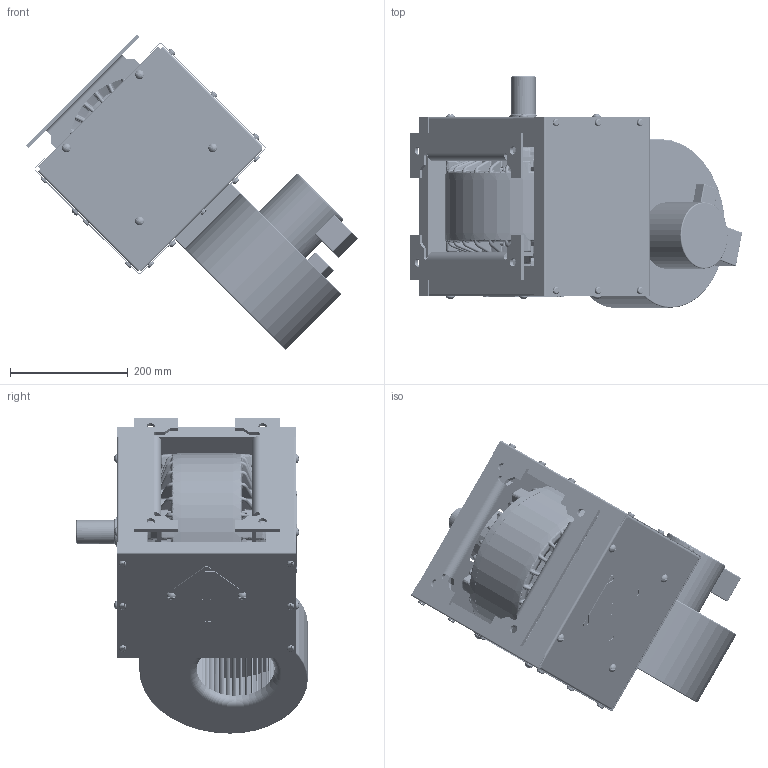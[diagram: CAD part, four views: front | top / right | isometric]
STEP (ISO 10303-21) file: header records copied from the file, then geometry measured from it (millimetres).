
FILE_DESCRIPTION(/* description */ ('STEP AP214'),/* implementation_level */ '2;1');
FILE_NAME(/* name */ '100MBA90B20_stp.step',/* time_stamp */ '2026-05-13T11:49:20-05:00',/* author */ (''),/* organization */ (''),/* preprocessor_version */ 'ST-DEVELOPER v20.1',/* originating_system */ 'Autodesk Translation Framework v15.8.0.0',/* authorisation */ '');
FILE_SCHEMA (('AUTOMOTIVE_DESIGN { 1 0 10303 214 3 1 1 }'));
Products named in the file (1): 100MBA90B20_asm_stp
Bounding box: 564.82 x 394.38 x 536.34 mm (x, y, z)
Volume: 7211661.7 mm3; surface area: 2482689.8 mm2
Topology: 6 solids, 10 shells, 4985 faces, 12579 edges, 7224 vertices
Faces by surface type: bspline 1592, cylinder 1266, plane 1231, torus 584, cone 238, sphere 74
Full cylindrical faces by diameter (mm): 4.039 x2, 6.35 x24, 7.144 x22, 7.671 x22, 7.925 x10, 7.938 x1, 8.731 x8, 9.525 x7, 10.319 x1, 12.497 x22, 12.7 x2, 13.573 x1, 14.275 x4, 14.986 x10, 17.475 x1, 19.05 x1, 31.75 x1, 41.237 x1, 42.469 x2, 43.663 x1, 45.009 x6, 45.014 x1, 51 x4, 63.5 x1, 63.551 x1, 66.9 x2, 69 x4, 71.425 x1, 75 x1, 75.006 x1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
Entity records: 219192 total; most frequent: CARTESIAN_POINT 110434, ORIENTED_EDGE 24712, DIRECTION 21034, EDGE_CURVE 12356, AXIS2_PLACEMENT_3D 8841, VERTEX_POINT 7224, CIRCLE 5271, EDGE_LOOP 5230
